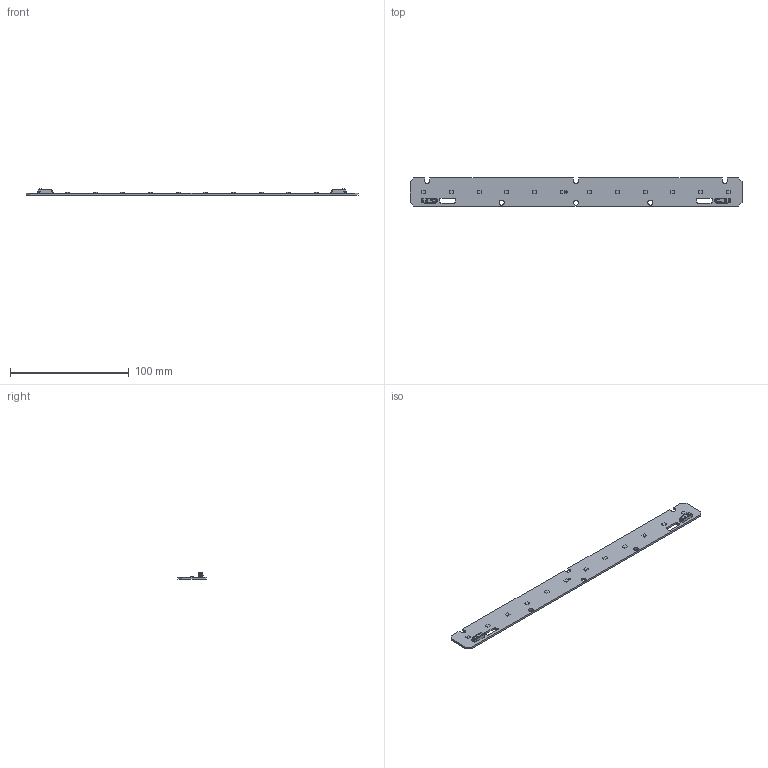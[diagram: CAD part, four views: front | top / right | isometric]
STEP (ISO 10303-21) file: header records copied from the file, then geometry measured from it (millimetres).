
FILE_DESCRIPTION((''),'2;1');
FILE_NAME('16208800_LLE-G5-24X280-650LM','2018-07-17T08:37:28',('bernhard.fink'),(''),'CREO PARAMETRIC BY PTC INC, 2017380','CREO PARAMETRIC BY PTC INC, 2017380','');
FILE_SCHEMA(('AUTOMOTIVE_DESIGN { 1 0 10303 214 1 1 1 1 }'));
Length unit declared in the file: millimetre
Products named in the file (1): 16208800_LLE-G5-24X280-650LM
Bounding box: 279 x 23.6 x 5.1 mm (x, y, z)
Volume: 10788 mm3; surface area: 14395.3 mm2
Topology: 1 solids, 1 shells, 595 faces, 1538 edges, 960 vertices
Faces by surface type: plane 272, cylinder 145, bspline 120, cone 34, torus 12, sphere 12
Entity records: 31679 total; most frequent: CARTESIAN_POINT 9135, ORIENTED_EDGE 3048, DIRECTION 2302, PRESENTATION_STYLE_ASSIGNMENT 2120, STYLED_ITEM 1525, CURVE_STYLE 1524, EDGE_CURVE 1524, VERTEX_POINT 958
